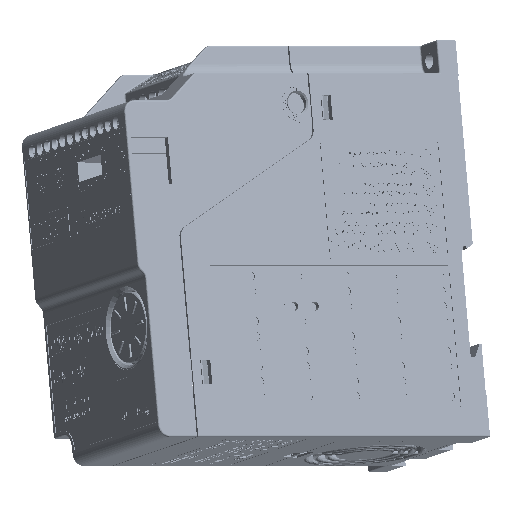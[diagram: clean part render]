
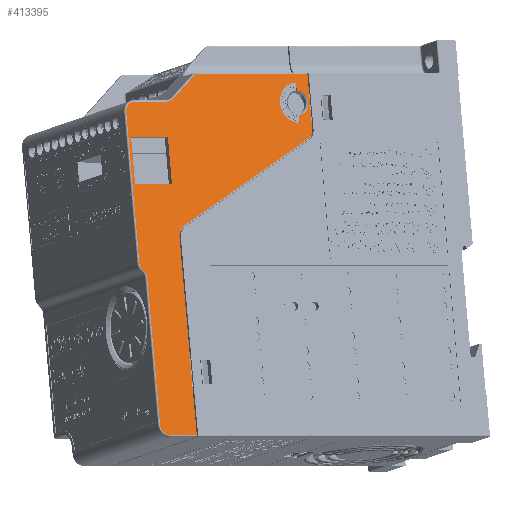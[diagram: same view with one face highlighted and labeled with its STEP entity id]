
A CAD part, front view. The second image highlights one B-rep face of the part: STEP entity #413395.
In plain terms, the highlighted planar face has unit normal (0.499, -0.85, 0.17) as drawn and (-1, 0, 0) by its records, which use the part's own axes.
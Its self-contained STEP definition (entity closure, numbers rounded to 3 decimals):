
#405519=CARTESIAN_POINT('',(-34.,100.241,54.5));
#405520=VERTEX_POINT('',#405519);
#405701=CARTESIAN_POINT('',(-34.,62.1,49.1));
#405702=VERTEX_POINT('',#405701);
#405703=CARTESIAN_POINT('',(-34.,62.1,41.1));
#405704=VERTEX_POINT('',#405703);
#410212=CARTESIAN_POINT('',(-34.,125.1,-62.));
#410213=VERTEX_POINT('',#410212);
#410222=CARTESIAN_POINT('',(-34.,121.6,-65.5));
#410223=VERTEX_POINT('',#410222);
#410231=CARTESIAN_POINT('',(-34.,121.6,-62.));
#410232=DIRECTION('',(1.0,0.0,0.0));
#410233=DIRECTION('',(0.0,0.707,-0.707));
#410234=AXIS2_PLACEMENT_3D('',#410231,#410232,#410233);
#410235=CIRCLE('',#410234,3.5);
#410236=EDGE_CURVE('',#410223,#410213,#410235,.T.);
#410246=CARTESIAN_POINT('',(-34.,125.1,-13.393));
#410247=VERTEX_POINT('',#410246);
#410257=CARTESIAN_POINT('',(-34.,125.1,-62.));
#410258=DIRECTION('',(0.0,0.0,1.0));
#410259=VECTOR('',#410258,48.607);
#410260=LINE('',#410257,#410259);
#410261=EDGE_CURVE('',#410213,#410247,#410260,.T.);
#410271=CARTESIAN_POINT('',(-34.,126.125,-10.918));
#410272=VERTEX_POINT('',#410271);
#410282=CARTESIAN_POINT('',(-34.,128.6,-13.393));
#410283=DIRECTION('',(-1.0,0.0,0.0));
#410284=DIRECTION('',(0.0,-0.924,0.383));
#410285=AXIS2_PLACEMENT_3D('',#410282,#410283,#410284);
#410286=CIRCLE('',#410285,3.5);
#410287=EDGE_CURVE('',#410247,#410272,#410286,.T.);
#410297=CARTESIAN_POINT('',(-34.,126.868,-10.175));
#410298=VERTEX_POINT('',#410297);
#410308=CARTESIAN_POINT('',(-34.,126.125,-10.918));
#410309=DIRECTION('',(0.0,0.707,0.707));
#410310=VECTOR('',#410309,1.05);
#410311=LINE('',#410308,#410310);
#410312=EDGE_CURVE('',#410272,#410298,#410311,.T.);
#410322=CARTESIAN_POINT('',(-34.,127.6,-8.407));
#410323=VERTEX_POINT('',#410322);
#410333=CARTESIAN_POINT('',(-34.,125.1,-8.407));
#410334=DIRECTION('',(1.0,0.0,0.0));
#410335=DIRECTION('',(0.0,0.924,-0.383));
#410336=AXIS2_PLACEMENT_3D('',#410333,#410334,#410335);
#410337=CIRCLE('',#410336,2.5);
#410338=EDGE_CURVE('',#410298,#410323,#410337,.T.);
#410348=CARTESIAN_POINT('',(-34.,127.6,42.));
#410349=VERTEX_POINT('',#410348);
#410359=CARTESIAN_POINT('',(-34.,127.6,-8.407));
#410360=DIRECTION('',(0.0,0.0,1.0));
#410361=VECTOR('',#410360,50.407);
#410362=LINE('',#410359,#410361);
#410363=EDGE_CURVE('',#410323,#410349,#410362,.T.);
#410373=CARTESIAN_POINT('',(-34.,124.1,45.5));
#410374=VERTEX_POINT('',#410373);
#410384=CARTESIAN_POINT('',(-34.,124.1,42.));
#410385=DIRECTION('',(1.0,0.0,0.0));
#410386=DIRECTION('',(0.0,0.707,0.707));
#410387=AXIS2_PLACEMENT_3D('',#410384,#410385,#410386);
#410388=CIRCLE('',#410387,3.5);
#410389=EDGE_CURVE('',#410349,#410374,#410388,.T.);
#410399=CARTESIAN_POINT('',(-34.,112.116,45.5));
#410400=VERTEX_POINT('',#410399);
#410410=CARTESIAN_POINT('',(-34.,124.1,45.5));
#410411=DIRECTION('',(0.0,-1.0,0.0));
#410412=VECTOR('',#410411,11.984);
#410413=LINE('',#410410,#410412);
#410414=EDGE_CURVE('',#410374,#410400,#410413,.T.);
#410424=CARTESIAN_POINT('',(-34.,109.134,46.63));
#410425=VERTEX_POINT('',#410424);
#410435=CARTESIAN_POINT('',(-34.,112.116,50.));
#410436=DIRECTION('',(-1.0,0.0,0.0));
#410437=DIRECTION('',(0.0,-0.354,-0.935));
#410438=AXIS2_PLACEMENT_3D('',#410435,#410436,#410437);
#410439=CIRCLE('',#410438,4.5);
#410440=EDGE_CURVE('',#410400,#410425,#410439,.T.);
#410453=CARTESIAN_POINT('',(-34.,109.134,46.63));
#410454=DIRECTION('',(0.0,-0.749,0.663));
#410455=VECTOR('',#410454,11.875);
#410456=LINE('',#410453,#410455);
#410457=EDGE_CURVE('',#410425,#405520,#410456,.T.);
#410467=CARTESIAN_POINT('',(-34.,57.5,54.5));
#410468=VERTEX_POINT('',#410467);
#410478=CARTESIAN_POINT('',(-34.,100.241,54.5));
#410479=DIRECTION('',(0.0,-1.0,0.0));
#410480=VECTOR('',#410479,42.741);
#410481=LINE('',#410478,#410480);
#410482=EDGE_CURVE('',#405520,#410468,#410481,.T.);
#410493=CARTESIAN_POINT('',(-34.,112.6,18.1));
#410494=VERTEX_POINT('',#410493);
#410501=CARTESIAN_POINT('',(-34.,112.6,33.7));
#410502=VERTEX_POINT('',#410501);
#410503=CARTESIAN_POINT('',(-34.,112.6,33.7));
#410504=DIRECTION('',(0.0,0.0,-1.0));
#410505=VECTOR('',#410504,15.6);
#410506=LINE('',#410503,#410505);
#410507=EDGE_CURVE('',#410502,#410494,#410506,.T.);
#410523=CARTESIAN_POINT('',(-34.,126.6,33.7));
#410524=VERTEX_POINT('',#410523);
#410533=CARTESIAN_POINT('',(-34.,126.6,33.7));
#410534=DIRECTION('',(0.0,-1.0,0.0));
#410535=VECTOR('',#410534,14.0);
#410536=LINE('',#410533,#410535);
#410537=EDGE_CURVE('',#410524,#410502,#410536,.T.);
#410547=CARTESIAN_POINT('',(-34.,126.6,18.1));
#410548=VERTEX_POINT('',#410547);
#410549=CARTESIAN_POINT('',(-34.,126.6,33.7));
#410550=DIRECTION('',(0.0,0.0,-1.0));
#410551=VECTOR('',#410550,15.6);
#410552=LINE('',#410549,#410551);
#410553=EDGE_CURVE('',#410524,#410548,#410552,.T.);
#410572=CARTESIAN_POINT('',(-34.,112.6,18.1));
#410573=DIRECTION('',(0.0,1.0,0.0));
#410574=VECTOR('',#410573,14.0);
#410575=LINE('',#410572,#410574);
#410576=EDGE_CURVE('',#410494,#410548,#410575,.T.);
#410588=CARTESIAN_POINT('',(-34.,62.1,51.85));
#410589=VERTEX_POINT('',#410588);
#410590=CARTESIAN_POINT('',(-34.,62.1,51.85));
#410591=DIRECTION('',(0.0,0.0,-1.0));
#410592=VECTOR('',#410591,2.75);
#410593=LINE('',#410590,#410592);
#410594=EDGE_CURVE('',#410589,#405702,#410593,.T.);
#410612=CARTESIAN_POINT('',(-34.,62.1,38.35));
#410613=VERTEX_POINT('',#410612);
#410614=CARTESIAN_POINT('',(-34.,62.1,45.1));
#410615=DIRECTION('',(1.0,0.0,0.0));
#410616=DIRECTION('',(0.0,0.0,-1.0));
#410617=AXIS2_PLACEMENT_3D('',#410614,#410615,#410616);
#410618=CIRCLE('',#410617,6.75);
#410619=EDGE_CURVE('',#410613,#410589,#410618,.T.);
#410637=CARTESIAN_POINT('',(-34.,62.1,41.1));
#410638=DIRECTION('',(0.0,0.0,-1.0));
#410639=VECTOR('',#410638,2.75);
#410640=LINE('',#410637,#410639);
#410641=EDGE_CURVE('',#405704,#410613,#410640,.T.);
#410657=CARTESIAN_POINT('',(-34.,62.1,45.1));
#410658=DIRECTION('',(-1.0,0.0,0.0));
#410659=DIRECTION('',(0.0,1.0,0.0));
#410660=AXIS2_PLACEMENT_3D('',#410657,#410658,#410659);
#410661=CIRCLE('',#410660,4.);
#410662=EDGE_CURVE('',#405704,#405702,#410661,.T.);
#412071=CARTESIAN_POINT('',(-34.,59.25,33.178));
#412072=VERTEX_POINT('',#412071);
#412079=CARTESIAN_POINT('',(-34.,109.25,4.311));
#412080=VERTEX_POINT('',#412079);
#412081=CARTESIAN_POINT('',(-34.,109.25,4.311));
#412082=DIRECTION('',(0.,-0.866,0.5));
#412083=VECTOR('',#412082,57.735);
#412084=LINE('',#412081,#412083);
#412085=EDGE_CURVE('',#412080,#412072,#412084,.T.);
#412110=CARTESIAN_POINT('',(-34.,57.5,36.209));
#412111=VERTEX_POINT('',#412110);
#412118=CARTESIAN_POINT('',(-34.,61.,36.209));
#412119=DIRECTION('',(1.0,0.0,0.0));
#412120=DIRECTION('',(0.0,-0.866,-0.5));
#412121=AXIS2_PLACEMENT_3D('',#412118,#412119,#412120);
#412122=CIRCLE('',#412121,3.5);
#412123=EDGE_CURVE('',#412111,#412072,#412122,.T.);
#413020=CARTESIAN_POINT('',(-34.,57.5,36.209));
#413021=DIRECTION('',(0.0,0.0,1.0));
#413022=VECTOR('',#413021,18.291);
#413023=LINE('',#413020,#413022);
#413024=EDGE_CURVE('',#412111,#410468,#413023,.T.);
#413326=CARTESIAN_POINT('',(-34.,111.5,-65.5));
#413327=VERTEX_POINT('',#413326);
#413335=CARTESIAN_POINT('',(-34.,111.5,-65.5));
#413336=DIRECTION('',(0.0,1.0,0.0));
#413337=VECTOR('',#413336,10.1);
#413338=LINE('',#413335,#413337);
#413339=EDGE_CURVE('',#413327,#410223,#413338,.T.);
#413346=CARTESIAN_POINT('',(-34.,0.0,-66.));
#413347=DIRECTION('',(-1.0,0.0,0.0));
#413348=DIRECTION('',(0.0,0.0,1.0));
#413349=AXIS2_PLACEMENT_3D('',#413346,#413347,#413348);
#413350=PLANE('',#413349);
#413351=ORIENTED_EDGE('',*,*,#410482,.F.);
#413352=ORIENTED_EDGE('',*,*,#410457,.F.);
#413353=ORIENTED_EDGE('',*,*,#410440,.F.);
#413354=ORIENTED_EDGE('',*,*,#410414,.F.);
#413355=ORIENTED_EDGE('',*,*,#410389,.F.);
#413356=ORIENTED_EDGE('',*,*,#410363,.F.);
#413357=ORIENTED_EDGE('',*,*,#410338,.F.);
#413358=ORIENTED_EDGE('',*,*,#410312,.F.);
#413359=ORIENTED_EDGE('',*,*,#410287,.F.);
#413360=ORIENTED_EDGE('',*,*,#410261,.F.);
#413361=ORIENTED_EDGE('',*,*,#410236,.F.);
#413362=ORIENTED_EDGE('',*,*,#413339,.F.);
#413363=CARTESIAN_POINT('',(-34.,111.5,0.414));
#413364=VERTEX_POINT('',#413363);
#413365=CARTESIAN_POINT('',(-34.,111.5,-65.5));
#413366=DIRECTION('',(0.0,0.0,1.0));
#413367=VECTOR('',#413366,65.914);
#413368=LINE('',#413365,#413367);
#413369=EDGE_CURVE('',#413327,#413364,#413368,.T.);
#413370=ORIENTED_EDGE('',*,*,#413369,.T.);
#413371=CARTESIAN_POINT('',(-34.,107.,0.414));
#413372=DIRECTION('',(-1.0,0.0,0.0));
#413373=DIRECTION('',(0.0,0.866,0.5));
#413374=AXIS2_PLACEMENT_3D('',#413371,#413372,#413373);
#413375=CIRCLE('',#413374,4.5);
#413376=EDGE_CURVE('',#412080,#413364,#413375,.T.);
#413377=ORIENTED_EDGE('',*,*,#413376,.F.);
#413378=ORIENTED_EDGE('',*,*,#412085,.T.);
#413379=ORIENTED_EDGE('',*,*,#412123,.F.);
#413380=ORIENTED_EDGE('',*,*,#413024,.T.);
#413381=EDGE_LOOP('',(#413351,#413352,#413353,#413354,#413355,#413356,#413357,#413358,#413359,#413360,#413361,#413362,#413370,#413377,#413378,#413379,#413380));
#413382=FACE_OUTER_BOUND('',#413381,.T.);
#413383=ORIENTED_EDGE('',*,*,#410662,.F.);
#413384=ORIENTED_EDGE('',*,*,#410641,.T.);
#413385=ORIENTED_EDGE('',*,*,#410619,.T.);
#413386=ORIENTED_EDGE('',*,*,#410594,.T.);
#413387=EDGE_LOOP('',(#413383,#413384,#413385,#413386));
#413388=FACE_BOUND('',#413387,.T.);
#413389=ORIENTED_EDGE('',*,*,#410576,.T.);
#413390=ORIENTED_EDGE('',*,*,#410553,.F.);
#413391=ORIENTED_EDGE('',*,*,#410537,.T.);
#413392=ORIENTED_EDGE('',*,*,#410507,.T.);
#413393=EDGE_LOOP('',(#413389,#413390,#413391,#413392));
#413394=FACE_BOUND('',#413393,.T.);
#413395=ADVANCED_FACE('',(#413382,#413388,#413394),#413350,.T.);
